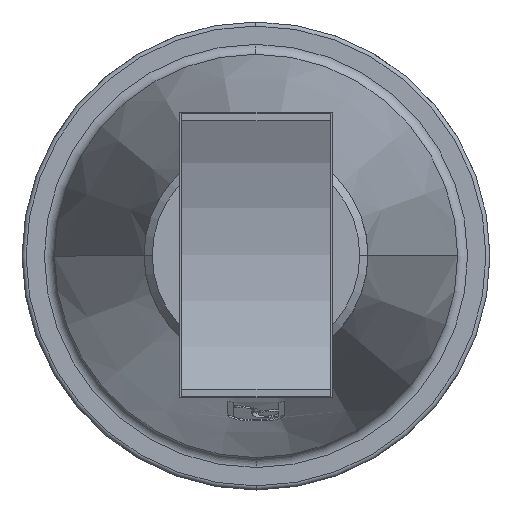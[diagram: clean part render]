
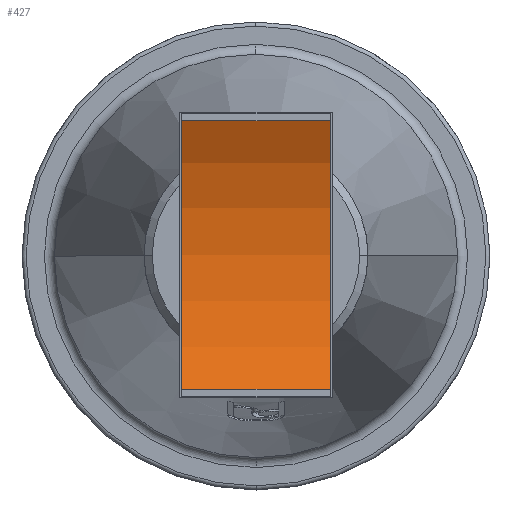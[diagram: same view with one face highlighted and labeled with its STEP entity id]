
A CAD part, top view. The second image highlights one B-rep face of the part: STEP entity #427.
In plain terms, the highlighted cylindrical face has radius 136.5 mm (diameter 273 mm), a partial arc.
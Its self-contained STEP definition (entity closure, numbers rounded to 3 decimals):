
#427=ADVANCED_FACE('',(#827),#828,.F.);
#827=FACE_OUTER_BOUND('',#1228,.T.);
#828=CYLINDRICAL_SURFACE('',#1229,136.5);
#1228=EDGE_LOOP('',(#2233,#2234,#2235,#2236));
#1229=AXIS2_PLACEMENT_3D('',#2237,#2238,#2239);
#2233=ORIENTED_EDGE('',*,*,#2672,.T.);
#2234=ORIENTED_EDGE('',*,*,#2673,.F.);
#2235=ORIENTED_EDGE('',*,*,#2674,.T.);
#2236=ORIENTED_EDGE('',*,*,#2669,.T.);
#2237=CARTESIAN_POINT('',(537.821,621.959,218.25));
#2238=DIRECTION('',(1.0,0.,0.));
#2239=DIRECTION('',(0.,1.0,0.));
#2669=EDGE_CURVE('',#3246,#3244,#3247,.T.);
#2672=EDGE_CURVE('',#3244,#3250,#3251,.T.);
#2673=EDGE_CURVE('',#3252,#3250,#3253,.T.);
#2674=EDGE_CURVE('',#3252,#3246,#3254,.T.);
#3244=VERTEX_POINT('',#4539);
#3246=VERTEX_POINT('',#4542);
#3247=LINE('',#4543,#4544);
#3250=VERTEX_POINT('',#4548);
#3251=CIRCLE('',#4549,136.5);
#3252=VERTEX_POINT('',#4550);
#3253=LINE('',#4551,#4552);
#3254=CIRCLE('',#4553,136.5);
#4539=CARTESIAN_POINT('',(610.821,555.99,98.75));
#4542=CARTESIAN_POINT('',(537.821,555.99,98.75));
#4543=CARTESIAN_POINT('',(537.821,555.99,98.75));
#4544=VECTOR('',#5013,1.0);
#4548=CARTESIAN_POINT('',(610.821,687.929,98.75));
#4549=AXIS2_PLACEMENT_3D('',#5015,#5016,#5017);
#4550=CARTESIAN_POINT('',(537.821,687.929,98.75));
#4551=CARTESIAN_POINT('',(537.821,687.929,98.75));
#4552=VECTOR('',#5018,1.0);
#4553=AXIS2_PLACEMENT_3D('',#5019,#5020,#5021);
#5013=DIRECTION('',(1.0,0.,0.));
#5015=CARTESIAN_POINT('',(610.821,621.959,218.25));
#5016=DIRECTION('',(1.0,0.,0.));
#5017=DIRECTION('',(0.,1.0,0.));
#5018=DIRECTION('',(1.0,0.,0.));
#5019=CARTESIAN_POINT('',(537.821,621.959,218.25));
#5020=DIRECTION('',(-1.0,0.,0.));
#5021=DIRECTION('',(0.,1.0,0.));
